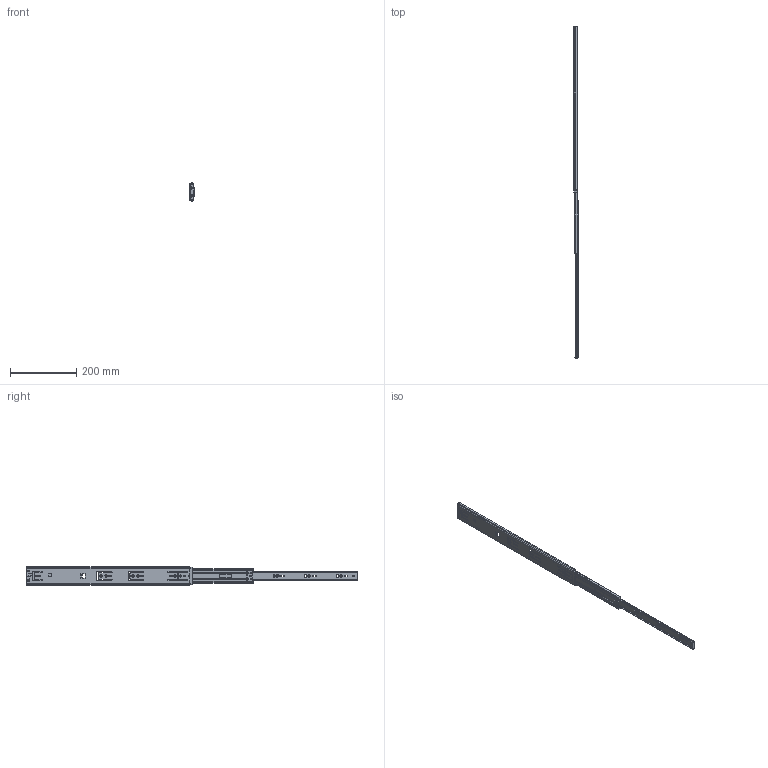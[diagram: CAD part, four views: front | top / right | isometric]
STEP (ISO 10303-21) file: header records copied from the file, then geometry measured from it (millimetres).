
FILE_DESCRIPTION( ( 'Unknown' ), '1' );
FILE_NAME( 'C:/Users/rd30/Desktop/85A01-500-Open.stp', 'Unknown', ( 'Unknown' ), ( 'Unknown' ), 'PSStep 14.0', 'Unknown', ' ' );
FILE_SCHEMA( ( 'AUTOMOTIVE_DESIGN { 1 0 10303 214 1 1 1 1 }' ) );
Length unit declared in the file: millimetre
Products named in the file (8): P10-366-3-1; P10-367-130429; 本體(卡式)20130423-\X2\4FEE6A21571\X0\; Assem1; 85A01P11-02-500; 85A01P21-03-500; 85A01P30-04-500; 85A01P30-04-B
Assembly tree (7 placements, depth 3):
  Assem1
    85A01P11-02-500
    85A01P21-03-500
    85A01P30-04-500
    85A01P30-04-B
    P10-366-3-1
      P10-367-130429
      本體(卡式)20130423-\X2\4FEE6A21571\X0\
Bounding box: 12.6 x 999.01 x 55.37 mm (x, y, z)
Volume: 185025.6 mm3; surface area: 159870.8 mm2
Topology: 6 solids, 6 shells, 683 faces, 1960 edges, 1287 vertices
Faces by surface type: plane 332, cylinder 291, cone 32, torus 24, bspline 2, sphere 2
Full cylindrical faces by diameter (mm): 1.4 x1, 3 x1, 3.2 x1, 4.6 x1, 5 x4, 5.1 x1, 5.5 x1, 6.25 x1, 6.4 x3
Entity records: 28414 total; most frequent: CARTESIAN_POINT 4302, DIRECTION 3876, ORIENTED_EDGE 3858, EDGE_CURVE 1929, AXIS2_PLACEMENT_3D 1341, VERTEX_POINT 1275, LINE 1194, VECTOR 1194
